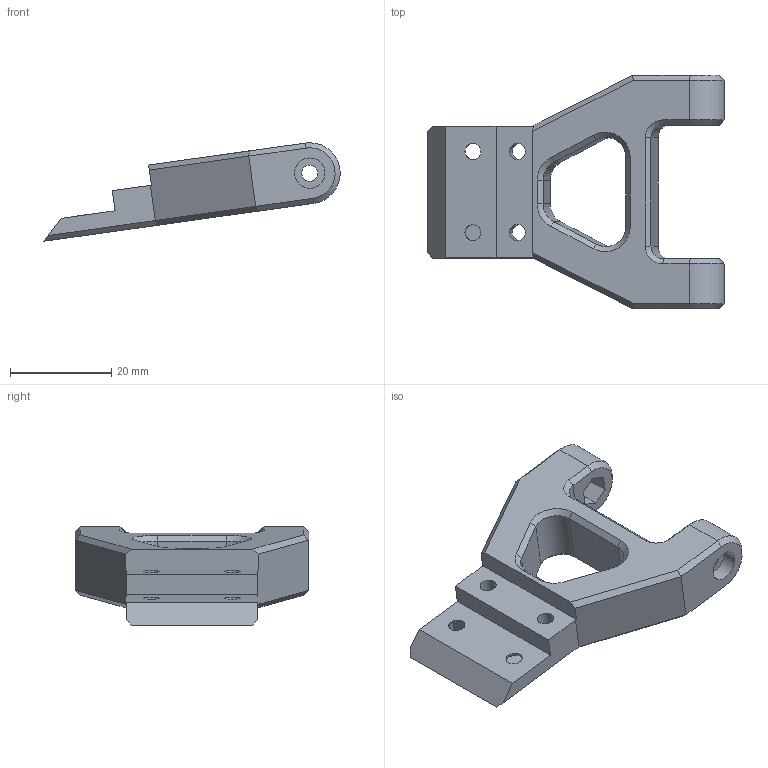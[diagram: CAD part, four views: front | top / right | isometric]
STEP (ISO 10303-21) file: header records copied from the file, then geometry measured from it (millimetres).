
FILE_DESCRIPTION(/* description */ (''),/* implementation_level */ '2;1');
FILE_NAME(/* name */ '3-09-2 Top wishbone.step',/* time_stamp */ '2025-05-10T22:04:03+02:00',/* author */ (''),/* organization */ (''),/* preprocessor_version */ 'ST-DEVELOPER v20.1',/* originating_system */ 'Autodesk Translation Framework v14.4.0.0',/* authorisation */ '');
FILE_SCHEMA (('AUTOMOTIVE_DESIGN { 1 0 10303 214 3 1 1 }'));
Length unit declared in the file: millimetre
Products named in the file (1): 3-09-2 Top wishbone
Bounding box: 58.44 x 46 x 19.43 mm (x, y, z)
Volume: 12088 mm3; surface area: 6080.3 mm2
Topology: 1 solids, 1 shells, 144 faces, 374 edges, 236 vertices
Faces by surface type: plane 108, cone 20, cylinder 16
Full cylindrical faces by diameter (mm): 3.2 x6, 6 x2
Entity records: 4376 total; most frequent: CARTESIAN_POINT 807, ORIENTED_EDGE 748, DIRECTION 714, EDGE_CURVE 374, LINE 272, VECTOR 272, VERTEX_POINT 236, AXIS2_PLACEMENT_3D 221
